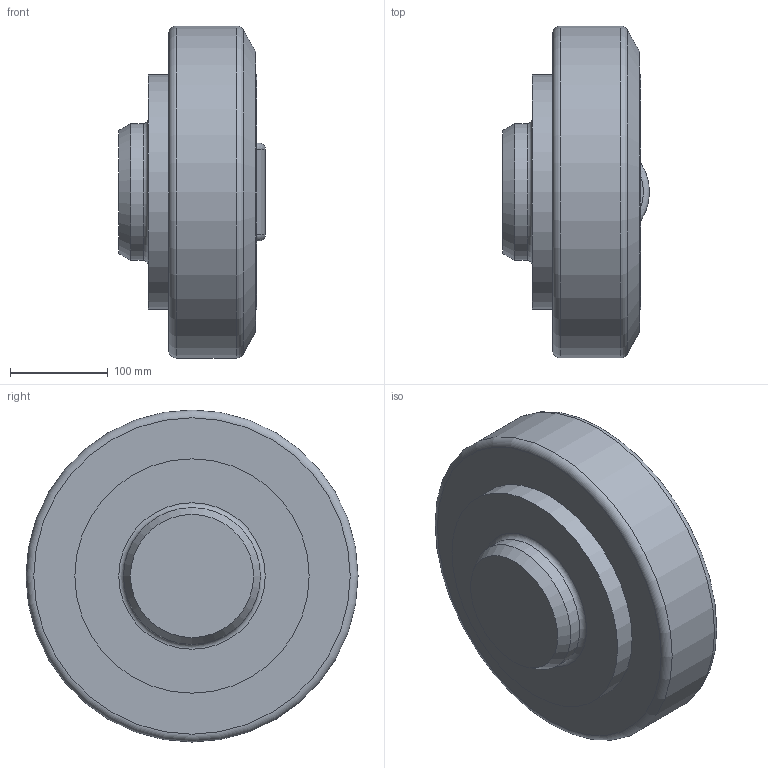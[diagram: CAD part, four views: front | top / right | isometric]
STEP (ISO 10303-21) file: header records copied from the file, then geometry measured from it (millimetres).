
FILE_DESCRIPTION((''),'2;1');
FILE_NAME('K:\Daten\KOMPONENTEN 2D + 3D\Rollen\Mammutrolle\3D\MR 340.0610\ALFATEC_MR_340_0610.stp','2013-09-30T18:04:24',('hipp'),(''),'Autodesk Inventor 2013','Autodesk Inventor 2013','');
FILE_SCHEMA(('CONFIG_CONTROL_DESIGN'));
Length unit declared in the file: millimetre
Products named in the file (1): ALFATEC_MR_340_0610_Shrinkwrap_1
Bounding box: 149.88 x 340 x 340 mm (x, y, z)
Volume: 9346107.9 mm3; surface area: 287278.5 mm2
Topology: 1 solids, 1 shells, 19 faces, 36 edges, 23 vertices
Faces by surface type: plane 7, torus 5, cylinder 5, cone 2
Full cylindrical faces by diameter (mm): 140 x1, 240 x2, 340 x1
Entity records: 546 total; most frequent: CARTESIAN_POINT 134, DIRECTION 78, ORIENTED_EDGE 50, AXIS2_PLACEMENT_3D 37, EDGE_LOOP 32, EDGE_CURVE 25, VERTEX_POINT 21, STYLED_ITEM 20
